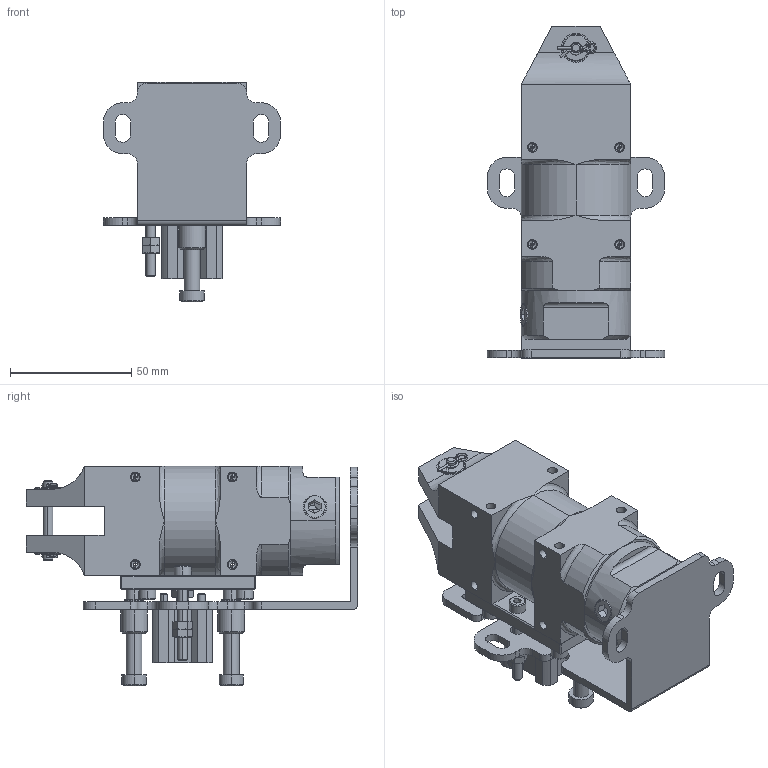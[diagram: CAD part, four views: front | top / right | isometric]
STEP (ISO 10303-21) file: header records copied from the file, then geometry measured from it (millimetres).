
FILE_DESCRIPTION (( 'STEP AP214' ), '1' );
FILE_NAME ('GTNB205OSHI.STEP', '2019-11-29T08:52:07', ( '微软用户' ), ( '微软中国' ), 'SwSTEP 2.0', 'SolidWorks 2016', '' );
FILE_SCHEMA (( 'AUTOMOTIVE_DESIGN' ));
Length unit declared in the file: millimetre
Products named in the file (1): GTNB205OSHI
Bounding box: 73 x 136.7 x 90.5 mm (x, y, z)
Surface area: 66500.4 mm2 (no closed solid volume)
Topology: 0 solids, 26 shells, 887 faces, 2204 edges, 1341 vertices
Faces by surface type: plane 311, cylinder 303, cone 237, bspline 34, torus 2
Entity records: 35343 total; most frequent: CARTESIAN_POINT 13766, DIRECTION 4338, ORIENTED_EDGE 4173, EDGE_CURVE 2149, AXIS2_PLACEMENT_3D 1708, VERTEX_POINT 1341, EDGE_LOOP 1043, LINE 922
